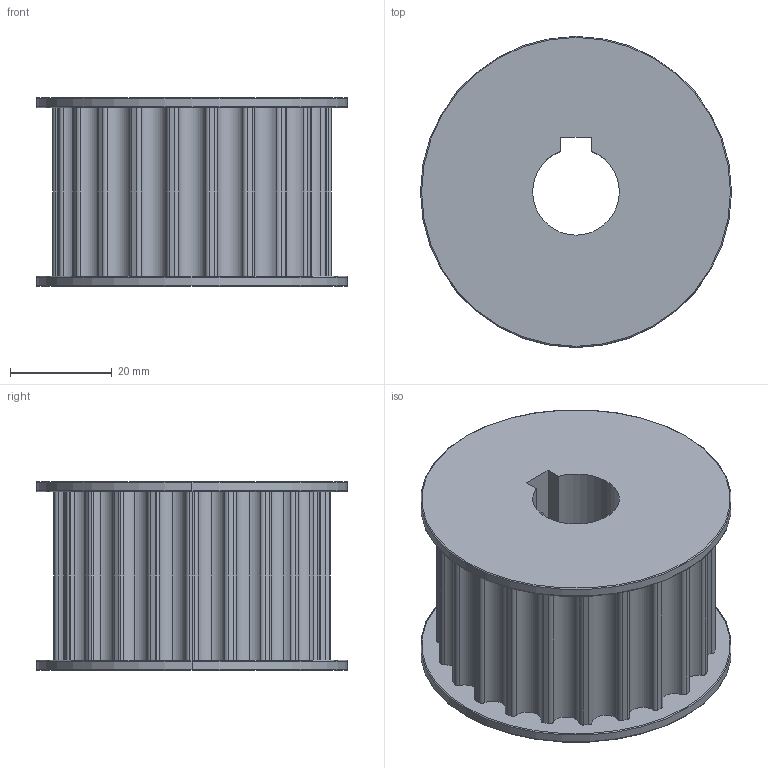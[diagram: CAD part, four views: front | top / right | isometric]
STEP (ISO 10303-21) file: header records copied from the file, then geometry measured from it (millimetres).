
FILE_DESCRIPTION (( 'STEP AP214' ), '1' );
FILE_NAME ('3.2037 HTD-8M-22-32-D17K6.STEP', '2026-02-09T11:08:12', ( '' ), ( '' ), 'SwSTEP 2.0', 'SolidWorks 2025', '' );
FILE_SCHEMA (( 'AUTOMOTIVE_DESIGN' ));
Length unit declared in the file: millimetre
Products named in the file (1): 3.2037 HTD-8M-22-32-D17K6
Bounding box: 61 x 61 x 37 mm (x, y, z)
Volume: 71607.7 mm3; surface area: 17611.4 mm2
Topology: 1 solids, 1 shells, 296 faces, 814 edges, 540 vertices
Faces by surface type: cylinder 120, plane 103, bspline 65, torus 8
Entity records: 13263 total; most frequent: CARTESIAN_POINT 5896, ORIENTED_EDGE 1628, DIRECTION 1396, EDGE_CURVE 814, VERTEX_POINT 540, AXIS2_PLACEMENT_3D 484, VECTOR 428, LINE 428
